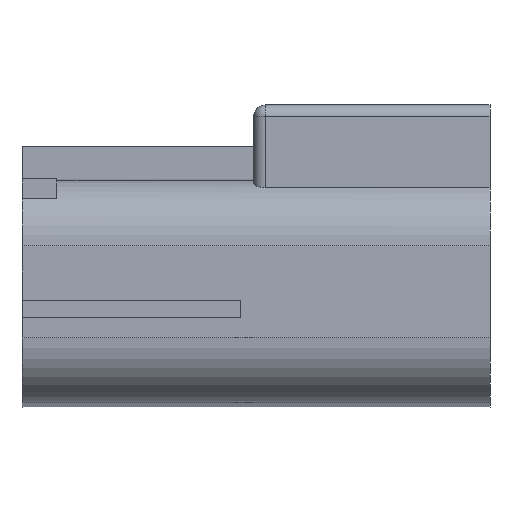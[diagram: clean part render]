
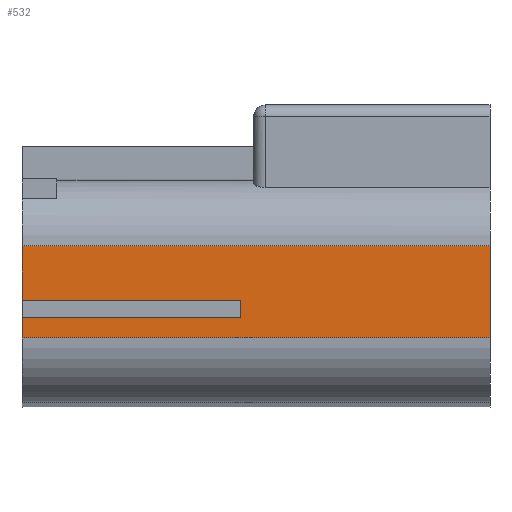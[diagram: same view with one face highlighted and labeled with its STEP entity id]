
A CAD part, front view. The second image highlights one B-rep face of the part: STEP entity #532.
In plain terms, the highlighted planar face has unit normal (0, -1, 0).
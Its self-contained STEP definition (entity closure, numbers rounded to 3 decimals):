
#388=CARTESIAN_POINT('Vertex',(-17.,-12.2,3.97)) ;
#391=CARTESIAN_POINT('Line Origine',(3.1,-12.2,3.97)) ;
#395=CARTESIAN_POINT('Vertex',(23.2,-12.2,3.97)) ;
#470=CARTESIAN_POINT('Axis2P3D Location',(0.,-12.2,8.759)) ;
#475=CARTESIAN_POINT('Line Origine',(-7.6,-12.2,-0.75)) ;
#479=CARTESIAN_POINT('Vertex',(-17.,-12.2,-0.75)) ;
#481=CARTESIAN_POINT('Vertex',(1.8,-12.2,-0.75)) ;
#484=CARTESIAN_POINT('Line Origine',(1.8,-12.2,-1.5)) ;
#488=CARTESIAN_POINT('Vertex',(1.8,-12.2,-2.25)) ;
#491=CARTESIAN_POINT('Line Origine',(-7.6,-12.2,-2.25)) ;
#495=CARTESIAN_POINT('Vertex',(-17.,-12.2,-2.25)) ;
#498=CARTESIAN_POINT('Line Origine',(-17.,-12.2,-3.11)) ;
#502=CARTESIAN_POINT('Vertex',(-17.,-12.2,-3.97)) ;
#505=CARTESIAN_POINT('Line Origine',(3.1,-12.2,-3.97)) ;
#509=CARTESIAN_POINT('Vertex',(23.2,-12.2,-3.97)) ;
#512=CARTESIAN_POINT('Line Origine',(23.2,-12.2,0.)) ;
#517=CARTESIAN_POINT('Line Origine',(-17.,-12.2,1.61)) ;
#392=DIRECTION('Vector Direction',(-1.,0.,0.)) ;
#471=DIRECTION('Axis2P3D Direction',(0.,1.,-0.)) ;
#472=DIRECTION('Axis2P3D XDirection',(-0.,-0.,-1.)) ;
#476=DIRECTION('Vector Direction',(1.,0.,0.)) ;
#485=DIRECTION('Vector Direction',(0.,0.,-1.)) ;
#492=DIRECTION('Vector Direction',(1.,0.,0.)) ;
#499=DIRECTION('Vector Direction',(0.,0.,-1.)) ;
#506=DIRECTION('Vector Direction',(-1.,0.,0.)) ;
#513=DIRECTION('Vector Direction',(0.,0.,-1.)) ;
#518=DIRECTION('Vector Direction',(0.,0.,-1.)) ;
#473=AXIS2_PLACEMENT_3D('Plane Axis2P3D',#470,#471,#472) ;
#523=ORIENTED_EDGE('',*,*,#483,.T.) ;
#524=ORIENTED_EDGE('',*,*,#490,.T.) ;
#525=ORIENTED_EDGE('',*,*,#497,.F.) ;
#526=ORIENTED_EDGE('',*,*,#504,.T.) ;
#527=ORIENTED_EDGE('',*,*,#511,.F.) ;
#528=ORIENTED_EDGE('',*,*,#516,.F.) ;
#529=ORIENTED_EDGE('',*,*,#397,.T.) ;
#530=ORIENTED_EDGE('',*,*,#521,.T.) ;
#393=VECTOR('Line Direction',#392,1.) ;
#477=VECTOR('Line Direction',#476,1.) ;
#486=VECTOR('Line Direction',#485,1.) ;
#493=VECTOR('Line Direction',#492,1.) ;
#500=VECTOR('Line Direction',#499,1.) ;
#507=VECTOR('Line Direction',#506,1.) ;
#514=VECTOR('Line Direction',#513,1.) ;
#519=VECTOR('Line Direction',#518,1.) ;
#532=ADVANCED_FACE('TYPE_1 \X2\306E7D50679C\X0\',(#531),#474,.F.) ;
#397=EDGE_CURVE('',#396,#389,#394,.T.) ;
#483=EDGE_CURVE('',#480,#482,#478,.T.) ;
#490=EDGE_CURVE('',#482,#489,#487,.T.) ;
#497=EDGE_CURVE('',#496,#489,#494,.T.) ;
#504=EDGE_CURVE('',#496,#503,#501,.T.) ;
#511=EDGE_CURVE('',#510,#503,#508,.T.) ;
#516=EDGE_CURVE('',#396,#510,#515,.T.) ;
#521=EDGE_CURVE('',#389,#480,#520,.T.) ;
#522=EDGE_LOOP('',(#523,#524,#525,#526,#527,#528,#529,#530)) ;
#531=FACE_OUTER_BOUND('',#522,.T.) ;
#394=LINE('Line',#391,#393) ;
#478=LINE('Line',#475,#477) ;
#487=LINE('Line',#484,#486) ;
#494=LINE('Line',#491,#493) ;
#501=LINE('Line',#498,#500) ;
#508=LINE('Line',#505,#507) ;
#515=LINE('Line',#512,#514) ;
#520=LINE('Line',#517,#519) ;
#474=PLANE('',#473) ;
#389=VERTEX_POINT('',#388) ;
#396=VERTEX_POINT('',#395) ;
#480=VERTEX_POINT('',#479) ;
#482=VERTEX_POINT('',#481) ;
#489=VERTEX_POINT('',#488) ;
#496=VERTEX_POINT('',#495) ;
#503=VERTEX_POINT('',#502) ;
#510=VERTEX_POINT('',#509) ;
